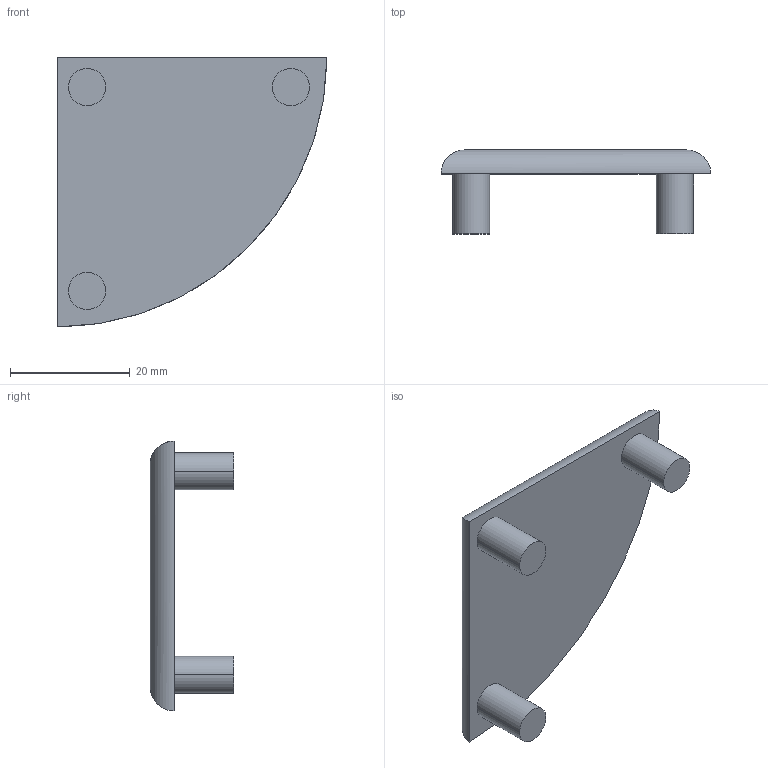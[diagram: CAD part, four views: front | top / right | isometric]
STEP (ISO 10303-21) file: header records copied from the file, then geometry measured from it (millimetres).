
FILE_DESCRIPTION((''),'2;1');
FILE_NAME('TAC4545RX','2002-12-27T',('Lipro doo'),('Lipro d.o.o.'),'PRO/ENGINEER BY PARAMETRIC TECHNOLOGY CORPORATION, 2001150','PRO/ENGINEER BY PARAMETRIC TECHNOLOGY CORPORATION, 2001150','');
FILE_SCHEMA(('CONFIG_CONTROL_DESIGN'));
Length unit declared in the file: millimetre
Products named in the file (1): TAC4545RX
Bounding box: 45 x 14 x 45 mm (x, y, z)
Volume: 6739 mm3; surface area: 4123.5 mm2
Topology: 1 solids, 1 shells, 14 faces, 27 edges, 18 vertices
Faces by surface type: cylinder 8, plane 5, torus 1
Entity records: 436 total; most frequent: CARTESIAN_POINT 98, DIRECTION 66, ORIENTED_EDGE 54, AXIS2_PLACEMENT_3D 28, EDGE_CURVE 27, VERTEX_POINT 18, EDGE_LOOP 17, FACE_OUTER_BOUND 14
